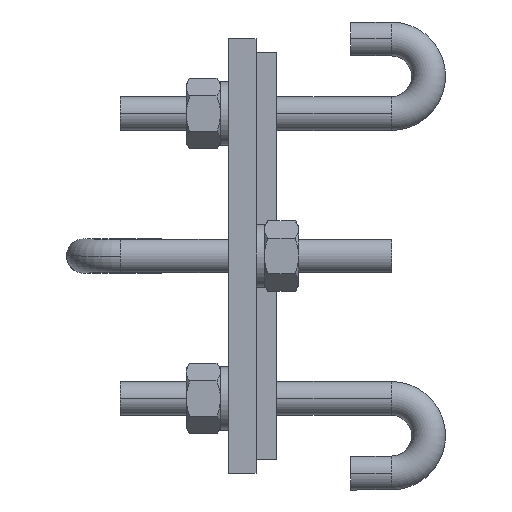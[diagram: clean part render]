
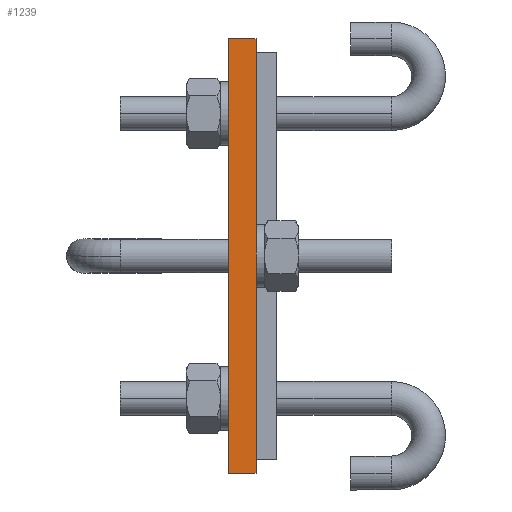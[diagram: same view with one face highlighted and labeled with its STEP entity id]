
A CAD part, left-side view. The second image highlights one B-rep face of the part: STEP entity #1239.
In plain terms, the highlighted planar face has unit normal (-1, 0, 0).
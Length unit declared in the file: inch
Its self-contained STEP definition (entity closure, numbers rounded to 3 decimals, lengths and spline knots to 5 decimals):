
#1145 = EDGE_CURVE ( 'NONE', #1146, #1147, #2106, .T. ) ;
#1146 = VERTEX_POINT ( 'NONE', #2102 ) ;
#1147 = VERTEX_POINT ( 'NONE', #2101 ) ;
#1164 = ORIENTED_EDGE ( 'NONE', *, *, #1165, .F. ) ;
#1165 = EDGE_CURVE ( 'NONE', #1166, #1147, #2132, .T. ) ;
#1166 = VERTEX_POINT ( 'NONE', #2128 ) ;
#1167 = ORIENTED_EDGE ( 'NONE', *, *, #1168, .F. ) ;
#1168 = EDGE_CURVE ( 'NONE', #1169, #1166, #2127, .T. ) ;
#1169 = VERTEX_POINT ( 'NONE', #2123 ) ;
#1170 = ORIENTED_EDGE ( 'NONE', *, *, #1506, .T. ) ;
#1239 = ADVANCED_FACE ( 'NONE', ( #2187 ), #2186, .F. ) ;
#1240 = EDGE_LOOP ( 'NONE', ( #1241, #1164, #1167, #1170 ) ) ;
#1241 = ORIENTED_EDGE ( 'NONE', *, *, #1145, .T. ) ;
#1506 = EDGE_CURVE ( 'NONE', #1169, #1146, #2686, .T. ) ;
#2101 = CARTESIAN_POINT ( 'NONE',  ( 0., 0., 0. ) ) ;
#2102 = CARTESIAN_POINT ( 'NONE',  ( 0., 0., -4. ) ) ;
#2103 = DIRECTION ( 'NONE',  ( 0., 0., 1. ) ) ;
#2104 = VECTOR ( 'NONE', #2103, 39.37008 ) ;
#2105 = CARTESIAN_POINT ( 'NONE',  ( 0., 0., 0. ) ) ;
#2106 = LINE ( 'NONE', #2105, #2104 ) ;
#2123 = CARTESIAN_POINT ( 'NONE',  ( 0., 0.25, -4. ) ) ;
#2124 = DIRECTION ( 'NONE',  ( 0., 0., 1. ) ) ;
#2125 = VECTOR ( 'NONE', #2124, 39.37008 ) ;
#2126 = CARTESIAN_POINT ( 'NONE',  ( 0., 0.25, 0. ) ) ;
#2127 = LINE ( 'NONE', #2126, #2125 ) ;
#2128 = CARTESIAN_POINT ( 'NONE',  ( 0., 0.25, 0. ) ) ;
#2129 = DIRECTION ( 'NONE',  ( 0., -1., 0. ) ) ;
#2130 = VECTOR ( 'NONE', #2129, 39.37008 ) ;
#2131 = CARTESIAN_POINT ( 'NONE',  ( 0., 0.25, 0. ) ) ;
#2132 = LINE ( 'NONE', #2131, #2130 ) ;
#2182 = DIRECTION ( 'NONE',  ( 0., 0., -1. ) ) ;
#2183 = DIRECTION ( 'NONE',  ( 1., 0., 0. ) ) ;
#2184 = CARTESIAN_POINT ( 'NONE',  ( 0., 0.25, 0. ) ) ;
#2185 = AXIS2_PLACEMENT_3D ( 'NONE', #2184, #2183, #2182 ) ;
#2186 = PLANE ( 'NONE',  #2185 ) ;
#2187 = FACE_OUTER_BOUND ( 'NONE', #1240, .T. ) ;
#2683 = DIRECTION ( 'NONE',  ( 0., -1., 0. ) ) ;
#2684 = VECTOR ( 'NONE', #2683, 39.37008 ) ;
#2685 = CARTESIAN_POINT ( 'NONE',  ( 0., 0.25, -4. ) ) ;
#2686 = LINE ( 'NONE', #2685, #2684 ) ;
